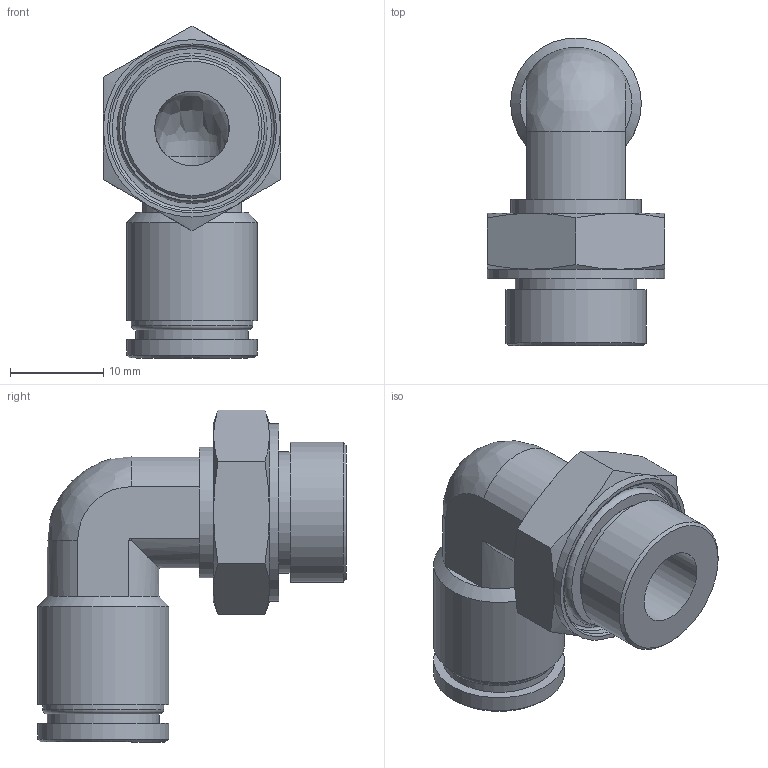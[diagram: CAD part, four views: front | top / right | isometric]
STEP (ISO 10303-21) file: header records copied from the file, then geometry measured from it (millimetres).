
FILE_DESCRIPTION(/* description */ (''),/* implementation_level */ '2;1');
FILE_NAME(/* name */ 'LXH28 0010 B3.stp',/* time_stamp */ '2026-04-30T12:32:20+02:00',/* author */ ('freju'),/* organization */ (''),/* preprocessor_version */ 'ST-DEVELOPER v20.1',/* originating_system */ 'Autodesk Inventor 2026',/* authorisation */ '');
FILE_SCHEMA (('AUTOMOTIVE_DESIGN { 1 0 10303 214 3 1 1 }'));
Length unit declared in the file: millimetre
Products named in the file (4): LXH28 0010 B3; LXH28 0010 B3_1; O-Ring; ISO 3601-1 - A 0125 G
Assembly tree (3 placements, depth 3):
  LXH28 0010 B3
    LXH28 0010 B3_1
    O-Ring
      ISO 3601-1 - A 0125 G
Bounding box: 19 x 33 x 35.57 mm (x, y, z)
Volume: 4793.6 mm3; surface area: 4632.5 mm2
Topology: 2 solids, 2 shells, 66 faces, 145 edges, 88 vertices
Faces by surface type: plane 23, cylinder 17, cone 15, torus 7, bspline 4
Full cylindrical faces by diameter (mm): 8 x2, 10 x1, 12 x1, 12.5 x1, 13 x2, 14 x3, 15 x1, 17.7 x1, 19 x1
Entity records: 1970 total; most frequent: CARTESIAN_POINT 406, DIRECTION 338, ORIENTED_EDGE 282, AXIS2_PLACEMENT_3D 152, EDGE_CURVE 141, VERTEX_POINT 88, CIRCLE 81, EDGE_LOOP 79
